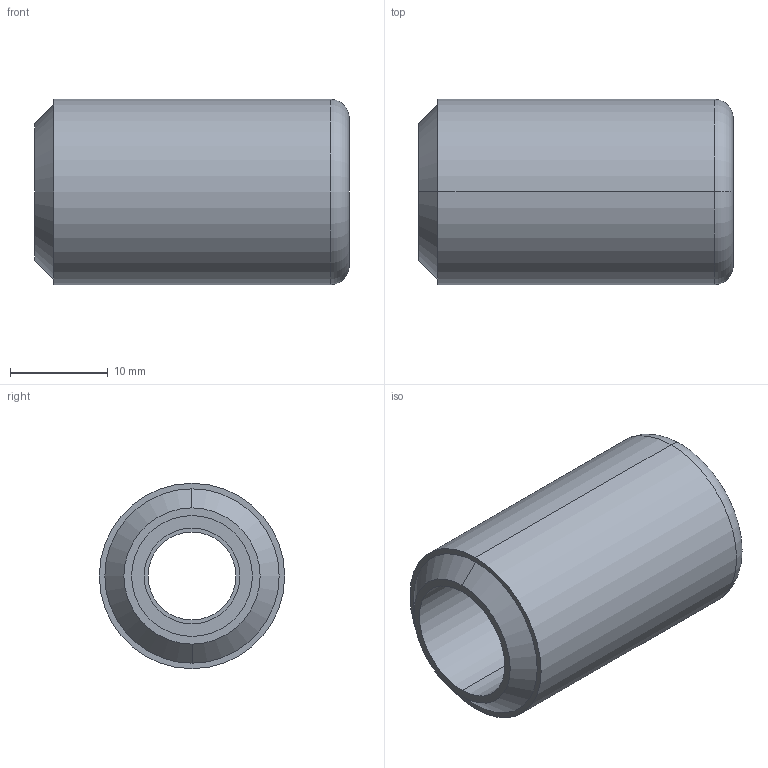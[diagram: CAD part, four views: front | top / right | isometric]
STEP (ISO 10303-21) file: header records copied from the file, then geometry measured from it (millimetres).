
FILE_DESCRIPTION (( 'STEP AP214' ), '1' );
FILE_NAME ('CR-INFV-00-01.STEP', '2020-12-10T16:55:48', ( '' ), ( '' ), 'SwSTEP 2.0', 'SolidWorks 2019', '' );
FILE_SCHEMA (( 'AUTOMOTIVE_DESIGN' ));
Length unit declared in the file: inch
Products named in the file (1): CR-INFV-00-01
Bounding box: 32.11 x 18.95 x 18.95 mm (x, y, z)
Volume: 5904.5 mm3; surface area: 3300.5 mm2
Topology: 1 solids, 1 shells, 20 faces, 40 edges, 26 vertices
Faces by surface type: cylinder 10, plane 6, cone 2, torus 2
Entity records: 840 total; most frequent: DIRECTION 110, CARTESIAN_POINT 87, ORIENTED_EDGE 80, AXIS2_PLACEMENT_3D 49, EDGE_CURVE 40, CIRCLE 28, EDGE_LOOP 26, VERTEX_POINT 26
